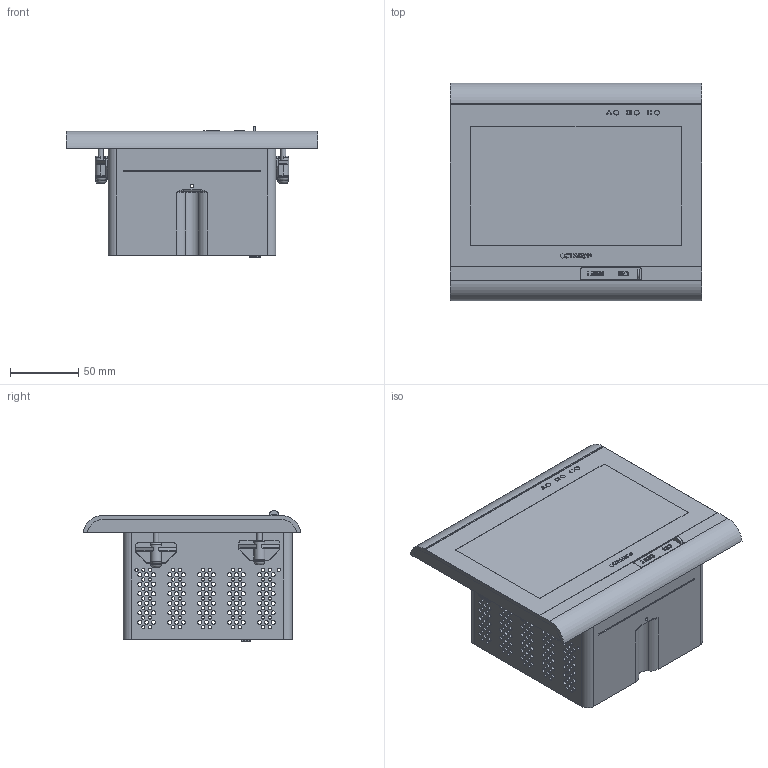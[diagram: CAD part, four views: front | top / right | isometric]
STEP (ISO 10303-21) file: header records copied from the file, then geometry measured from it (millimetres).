
FILE_DESCRIPTION (( 'STEP AP214' ), '1' );
FILE_NAME ('Á18-00.00_PLÑ 7i 03.00.STEP', '2023-10-06T11:23:30', ( '' ), ( '' ), 'SwSTEP 2.0', 'SolidWorks 2021', '' );
FILE_SCHEMA (( 'AUTOMOTIVE_DESIGN' ));
Length unit declared in the file: millimetre
Products named in the file (1): Á18-00.00_PLÑ 7i 03.00
Bounding box: 185 x 160 x 96.2 mm (x, y, z)
Surface area: 179486.6 mm2 (no closed solid volume)
Topology: 0 solids, 74 shells, 1151 faces, 5756 edges, 4576 vertices
Faces by surface type: plane 548, cylinder 506, bspline 42, cone 37, torus 18
Full cylindrical faces by diameter (mm): 2.4 x146, 2.5 x1, 3 x180, 3.6 x1, 4 x8, 5.5 x11, 8 x4
Entity records: 71046 total; most frequent: CARTESIAN_POINT 17873, DIRECTION 7768, ORIENTED_EDGE 6788, EDGE_CURVE 5034, VERTEX_POINT 4248, VECTOR 3074, LINE 3074, AXIS2_PLACEMENT_3D 2347
